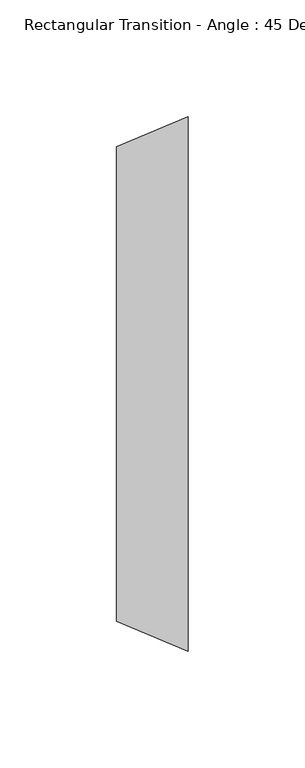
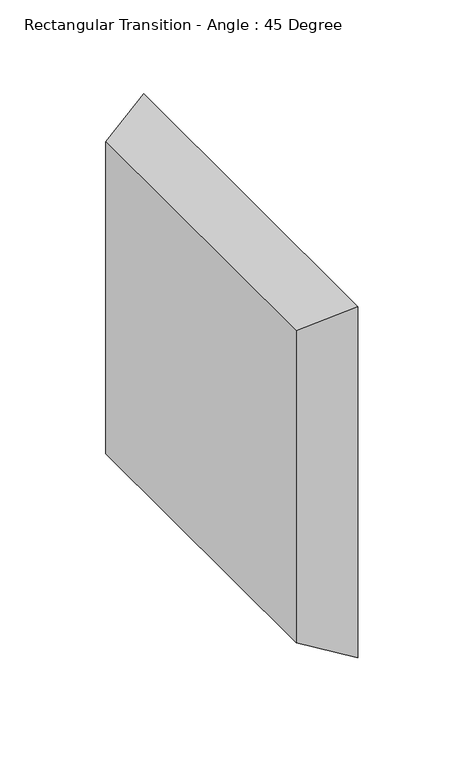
"""IFC4 building model written with IfcOpenShell, lengths in millimetres: duct fitting geometry, Rectangular Transition - Angle : 45 Degree."""

from ifc_helpers import new_model, si_unit, origin, place, context, project, spatial, faceted_brep, source, transform, mapped, element, save


def rectangular_transition_angle_45_degree_b0e98409(model_context):
    return source(origin(), model_context, "Body", "Brep", [
        faceted_brep([(30.6605122, -114.3, 114.3), (30.6605122, -114.3, -114.3), (30.6605122, 114.3, -114.3), (30.6605122, 114.3, 114.3), (0.0, -101.6, 101.6), (0.0, 101.6, 101.6), (0.0, 101.6, -101.6), (0.0, -101.6, -101.6)], [[[0, 1, 2, 3]], [[4, 5, 6, 7]], [[4, 7, 1, 0]], [[7, 6, 2, 1]], [[6, 5, 3, 2]], [[5, 4, 0, 3]]]),
    ])


if __name__ == "__main__":
    model = new_model("IFC4")
    model_context = context("Model", 3, world=origin())
    ifc_project = project(units=[si_unit("LENGTHUNIT", "METRE", prefix="MILLI")], contexts=[model_context])
    site = spatial("IfcSite", under=ifc_project)
    building = spatial("IfcBuilding", under=site)
    placement = place(None, origin())
    rectangular_transition_angle_45_degree_shape = rectangular_transition_angle_45_degree_b0e98409(model_context)
    element("IfcDuctFitting", 1, ObjectType="Rectangular Transition - Angle : 45 Degree", at=placement, inside=building, context=model_context, shape_type="MappedRepresentation", body=[
        mapped(rectangular_transition_angle_45_degree_shape, transform((0.0, 0.0, 0.0), x_axis=(1.0, 0.0, 0.0), y_axis=(0.0, 1.0, 0.0), z_axis=(0.0, 0.0, 1.0))),
    ])
    save(model, "model.ifc")
